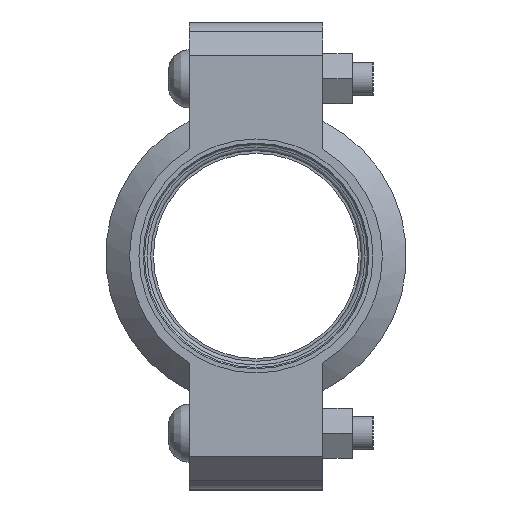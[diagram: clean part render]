
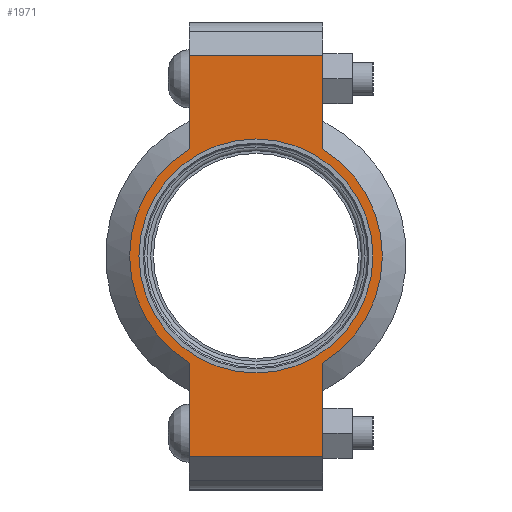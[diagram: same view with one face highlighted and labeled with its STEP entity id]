
A CAD part, left-side view. The second image highlights one B-rep face of the part: STEP entity #1971.
In plain terms, the highlighted planar face has unit normal (-1, 0, 0) as drawn and (0, 0, 1) by its records, which use the part's own axes.
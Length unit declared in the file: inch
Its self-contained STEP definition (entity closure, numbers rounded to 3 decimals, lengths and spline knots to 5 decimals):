
#160=LINE('',#3493,#257);
#168=LINE('',#3529,#265);
#175=LINE('',#3550,#272);
#184=LINE('',#3582,#281);
#185=LINE('',#3586,#282);
#186=LINE('',#3588,#283);
#257=VECTOR('',#2845,0.3937);
#265=VECTOR('',#2861,0.3937);
#272=VECTOR('',#2880,0.3937);
#281=VECTOR('',#2905,0.3937);
#282=VECTOR('',#2910,0.3937);
#283=VECTOR('',#2911,0.3937);
#339=FACE_BOUND('',#589,.T.);
#383=PLANE('',#2310);
#471=FACE_OUTER_BOUND('',#588,.T.);
#588=EDGE_LOOP('',(#1692,#1693,#1694,#1695,#1696,#1697,#1698,#1699));
#589=EDGE_LOOP('',(#1700));
#761=CIRCLE('',#2311,1.89);
#762=CIRCLE('',#2312,1.89);
#763=CIRCLE('',#2313,1.75);
#925=VERTEX_POINT('',#3490);
#926=VERTEX_POINT('',#3492);
#937=VERTEX_POINT('',#3524);
#938=VERTEX_POINT('',#3528);
#945=VERTEX_POINT('',#3547);
#946=VERTEX_POINT('',#3549);
#956=VERTEX_POINT('',#3585);
#957=VERTEX_POINT('',#3587);
#958=VERTEX_POINT('',#3590);
#1170=EDGE_CURVE('',#926,#925,#160,.T.);
#1184=EDGE_CURVE('',#938,#937,#168,.T.);
#1194=EDGE_CURVE('',#946,#945,#175,.T.);
#1209=EDGE_CURVE('',#938,#925,#184,.T.);
#1210=EDGE_CURVE('',#937,#946,#761,.T.);
#1211=EDGE_CURVE('',#956,#945,#185,.T.);
#1212=EDGE_CURVE('',#956,#957,#186,.T.);
#1213=EDGE_CURVE('',#957,#926,#762,.T.);
#1214=EDGE_CURVE('',#958,#958,#763,.T.);
#1692=ORIENTED_EDGE('',*,*,#1209,.F.);
#1693=ORIENTED_EDGE('',*,*,#1184,.T.);
#1694=ORIENTED_EDGE('',*,*,#1210,.T.);
#1695=ORIENTED_EDGE('',*,*,#1194,.T.);
#1696=ORIENTED_EDGE('',*,*,#1211,.F.);
#1697=ORIENTED_EDGE('',*,*,#1212,.T.);
#1698=ORIENTED_EDGE('',*,*,#1213,.T.);
#1699=ORIENTED_EDGE('',*,*,#1170,.T.);
#1700=ORIENTED_EDGE('',*,*,#1214,.T.);
#1971=ADVANCED_FACE('',(#471,#339),#383,.T.);
#2310=AXIS2_PLACEMENT_3D('',#3583,#2906,#2907);
#2311=AXIS2_PLACEMENT_3D('',#3584,#2908,#2909);
#2312=AXIS2_PLACEMENT_3D('',#3589,#2912,#2913);
#2313=AXIS2_PLACEMENT_3D('',#3591,#2914,#2915);
#2845=DIRECTION('',(1.,0.,0.));
#2861=DIRECTION('',(-1.,0.,0.));
#2880=DIRECTION('',(-1.,0.,0.));
#2905=DIRECTION('',(0.,-1.,0.));
#2906=DIRECTION('center_axis',(0.,0.,1.));
#2907=DIRECTION('ref_axis',(-1.,0.,0.));
#2908=DIRECTION('center_axis',(0.,0.,1.));
#2909=DIRECTION('ref_axis',(1.,0.,0.));
#2910=DIRECTION('',(0.,1.,0.));
#2911=DIRECTION('',(1.,0.,0.));
#2912=DIRECTION('center_axis',(0.,0.,1.));
#2913=DIRECTION('ref_axis',(1.,0.,0.));
#2914=DIRECTION('center_axis',(0.,0.,-1.));
#2915=DIRECTION('ref_axis',(1.,0.,0.));
#3490=CARTESIAN_POINT('',(3.,-1.,0.94));
#3492=CARTESIAN_POINT('',(1.60378,-1.,0.94));
#3493=CARTESIAN_POINT('',(3.5,-1.,0.94));
#3524=CARTESIAN_POINT('',(1.60378,1.,0.94));
#3528=CARTESIAN_POINT('',(3.,1.,0.94));
#3529=CARTESIAN_POINT('',(-3.5,1.,0.94));
#3547=CARTESIAN_POINT('',(-3.,1.,0.94));
#3549=CARTESIAN_POINT('',(-1.60378,1.,0.94));
#3550=CARTESIAN_POINT('',(-3.5,1.,0.94));
#3582=CARTESIAN_POINT('',(3.,-0.5,0.94));
#3583=CARTESIAN_POINT('Origin',(0.,0.,
0.94));
#3584=CARTESIAN_POINT('Origin',(0.,0.,0.94));
#3585=CARTESIAN_POINT('',(-3.,-1.,0.94));
#3586=CARTESIAN_POINT('',(-3.,0.5,0.94));
#3587=CARTESIAN_POINT('',(-1.60378,-1.,0.94));
#3588=CARTESIAN_POINT('',(3.5,-1.,0.94));
#3589=CARTESIAN_POINT('Origin',(0.,0.,0.94));
#3590=CARTESIAN_POINT('',(-1.75,0.,0.94));
#3591=CARTESIAN_POINT('Origin',(0.,0.,0.94));
